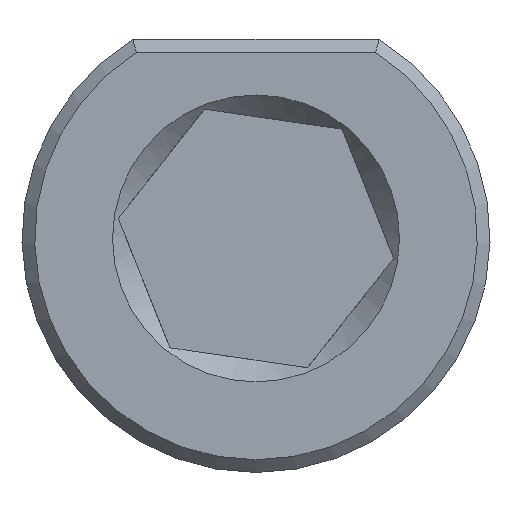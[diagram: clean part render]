
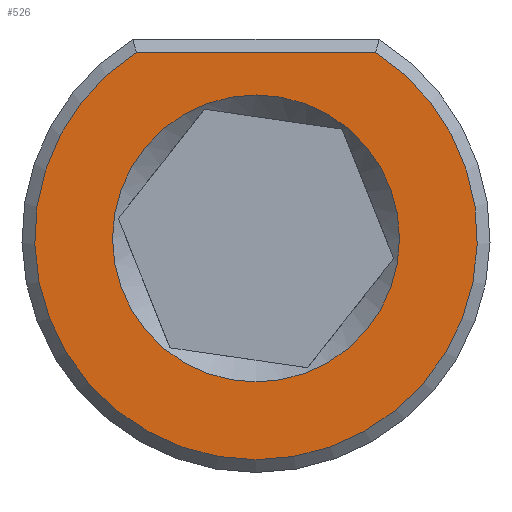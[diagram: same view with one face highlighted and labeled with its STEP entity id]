
A CAD part, front view. The second image highlights one B-rep face of the part: STEP entity #526.
In plain terms, the highlighted planar face has unit normal (0, -1, 0).
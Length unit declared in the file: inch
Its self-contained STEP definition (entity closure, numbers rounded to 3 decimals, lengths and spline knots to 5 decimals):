
#33=PLANE('',#587);
#47=FACE_BOUND('',#129,.T.);
#61=CIRCLE('',#581,0.347);
#66=CIRCLE('',#588,0.225);
#95=FACE_OUTER_BOUND('',#128,.T.);
#128=EDGE_LOOP('',(#421,#422));
#129=EDGE_LOOP('',(#423));
#157=LINE('',#969,#188);
#188=VECTOR('',#665,0.3937);
#246=VERTEX_POINT('',#967);
#247=VERTEX_POINT('',#968);
#254=VERTEX_POINT('',#997);
#306=EDGE_CURVE('',#246,#247,#157,.T.);
#311=EDGE_CURVE('',#247,#246,#61,.T.);
#319=EDGE_CURVE('',#254,#254,#66,.T.);
#421=ORIENTED_EDGE('',*,*,#306,.F.);
#422=ORIENTED_EDGE('',*,*,#311,.F.);
#423=ORIENTED_EDGE('',*,*,#319,.F.);
#526=ADVANCED_FACE('',(#95,#47),#33,.T.);
#581=AXIS2_PLACEMENT_3D('',#983,#671,#672);
#587=AXIS2_PLACEMENT_3D('',#996,#686,#687);
#588=AXIS2_PLACEMENT_3D('',#998,#688,#689);
#665=DIRECTION('',(1.,0.,0.));
#671=DIRECTION('center_axis',(0.,1.,0.));
#672=DIRECTION('ref_axis',(0.,0.,-1.));
#686=DIRECTION('center_axis',(0.,-1.,0.));
#687=DIRECTION('ref_axis',(0.,0.,-1.));
#688=DIRECTION('center_axis',(0.,-1.,0.));
#689=DIRECTION('ref_axis',(0.,0.,1.));
#967=CARTESIAN_POINT('',(-0.18747,0.,0.292));
#968=CARTESIAN_POINT('',(0.18747,0.,0.292));
#969=CARTESIAN_POINT('',(0.09662,0.,0.292));
#983=CARTESIAN_POINT('Origin',(0.,0.,0.));
#996=CARTESIAN_POINT('Origin',(0.,0.,-0.185));
#997=CARTESIAN_POINT('',(0.,0.,-0.225));
#998=CARTESIAN_POINT('Origin',(0.,0.,0.));
